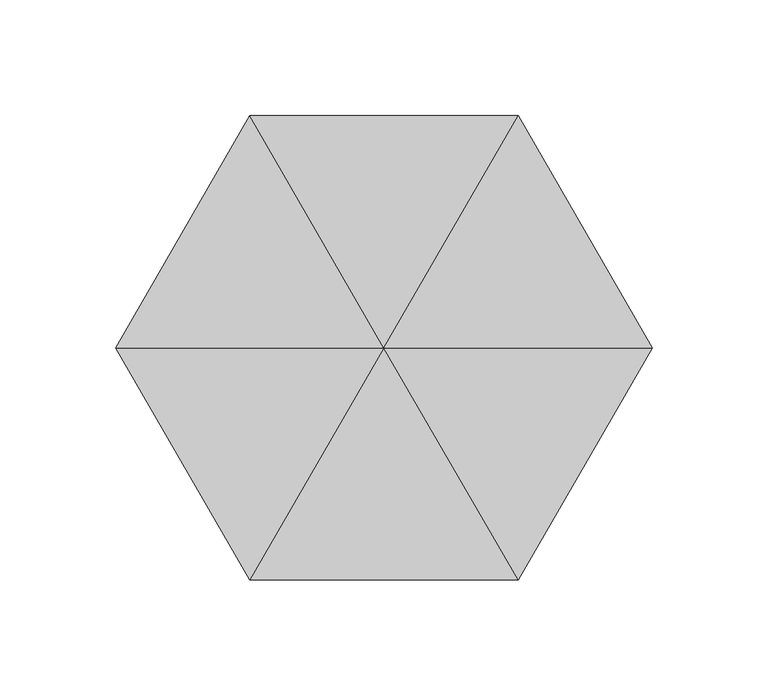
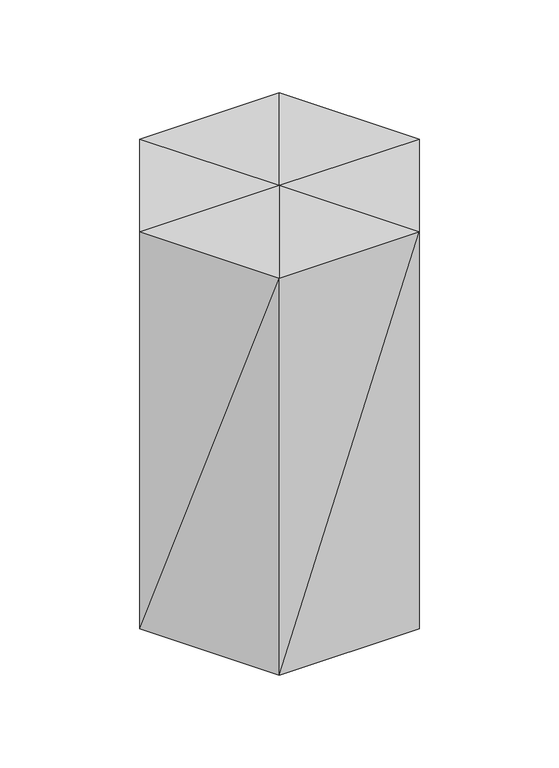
"""IFC4 building model written with IfcOpenShell, lengths in millimetres: geographic element geometry, Enscape AssetDefinition - Garbage Can 06 1 : Enscape AssetDefinition - Garbage Can 06 1."""

from ifc_helpers import new_model, si_unit, origin, place, context, project, spatial, faceted_brep, source, transform, mapped, element, save


def geographic_element_347349cb(model_context):
    return source(origin(), model_context, "Body", "Brep", [
        faceted_brep([(115.6666651, 0.0, 347.4243283), (115.6666651, 0.0, 0.0), (57.8333288, 100.1702771, 347.4243283), (-8e-07, -1.1e-06, 0.0), (57.8333288, 100.1702771, 0.0), (57.8333251, -100.1702771, 0.0), (-57.83334, 100.1702696, 347.4243283), (-3.1e-06, -4.6e-06, 347.4243283), (57.8333251, -100.1702771, 347.4243283), (-57.8333251, -100.1702771, 0.0), (-57.83334, 100.1702696, 0.0), (-115.6666651, -1.01e-05, 0.0), (-115.6666651, -1.01e-05, 347.4243283), (-57.8333251, -100.1702771, 347.4243283)], [[[0, 1, 2]], [[3, 4, 1]], [[3, 1, 5]], [[2, 1, 4]], [[0, 5, 1]], [[2, 4, 6]], [[7, 0, 2]], [[7, 2, 6]], [[8, 5, 0]], [[7, 8, 0]], [[3, 5, 9]], [[8, 9, 5]], [[3, 10, 4]], [[3, 11, 10]], [[3, 9, 11]], [[6, 4, 10]], [[6, 10, 12]], [[7, 6, 12]], [[7, 12, 13]], [[7, 13, 8]], [[13, 9, 8]], [[13, 11, 9]], [[12, 11, 13]], [[12, 10, 11]]]),
    ])


if __name__ == "__main__":
    model = new_model("IFC4")
    model_context = context("Model", 3, world=origin())
    ifc_project = project(units=[si_unit("LENGTHUNIT", "METRE", prefix="MILLI")], contexts=[model_context])
    site = spatial("IfcSite", under=ifc_project)
    building = spatial("IfcBuilding", under=site)
    placement = place(None, origin())
    geographic_element_shape = geographic_element_347349cb(model_context)
    element("IfcGeographicElement", 1, ObjectType="Enscape AssetDefinition - Garbage Can 06 1 : Enscape AssetDefinition - Garbage Can 06 1", at=placement, inside=building, context=model_context, shape_type="MappedRepresentation", body=[
        mapped(geographic_element_shape, transform((0.0, 0.0, 0.0), x_axis=(1.0, 0.0, 0.0), y_axis=(0.0, 1.0, 0.0), z_axis=(0.0, 0.0, 1.0))),
    ])
    save(model, "model.ifc")
